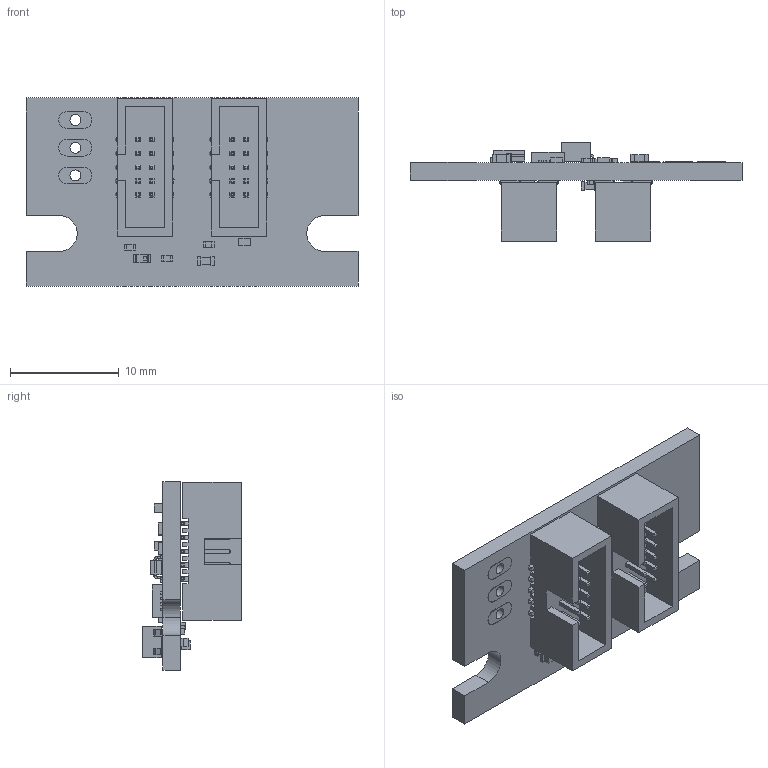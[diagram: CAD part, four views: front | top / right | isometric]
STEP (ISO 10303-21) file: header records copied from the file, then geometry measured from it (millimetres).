
FILE_DESCRIPTION (( 'STEP AP214' ), '1' );
FILE_NAME ('TACH_1.0.STEP', '2017-09-07T13:28:48', ( 'ART' ), ( 'Microsoft' ), 'SwSTEP 2.0', 'SolidWorks 2015', '' );
FILE_SCHEMA (( 'AUTOMOTIVE_DESIGN' ));
Length unit declared in the file: inch
Products named in the file (1): TACH_1.0
Bounding box: 30.48 x 9.07 x 17.27 mm (x, y, z)
Volume: 1230.5 mm3; surface area: 2393.1 mm2
Topology: 30 solids, 30 shells, 1211 faces, 2876 edges, 1805 vertices
Faces by surface type: plane 1087, cylinder 115, sphere 9
Entity records: 50053 total; most frequent: CARTESIAN_POINT 5884, ORIENTED_EDGE 5734, DIRECTION 5561, EDGE_CURVE 2867, VECTOR 2597, LINE 2597, VERTEX_POINT 1805, AXIS2_PLACEMENT_3D 1482
